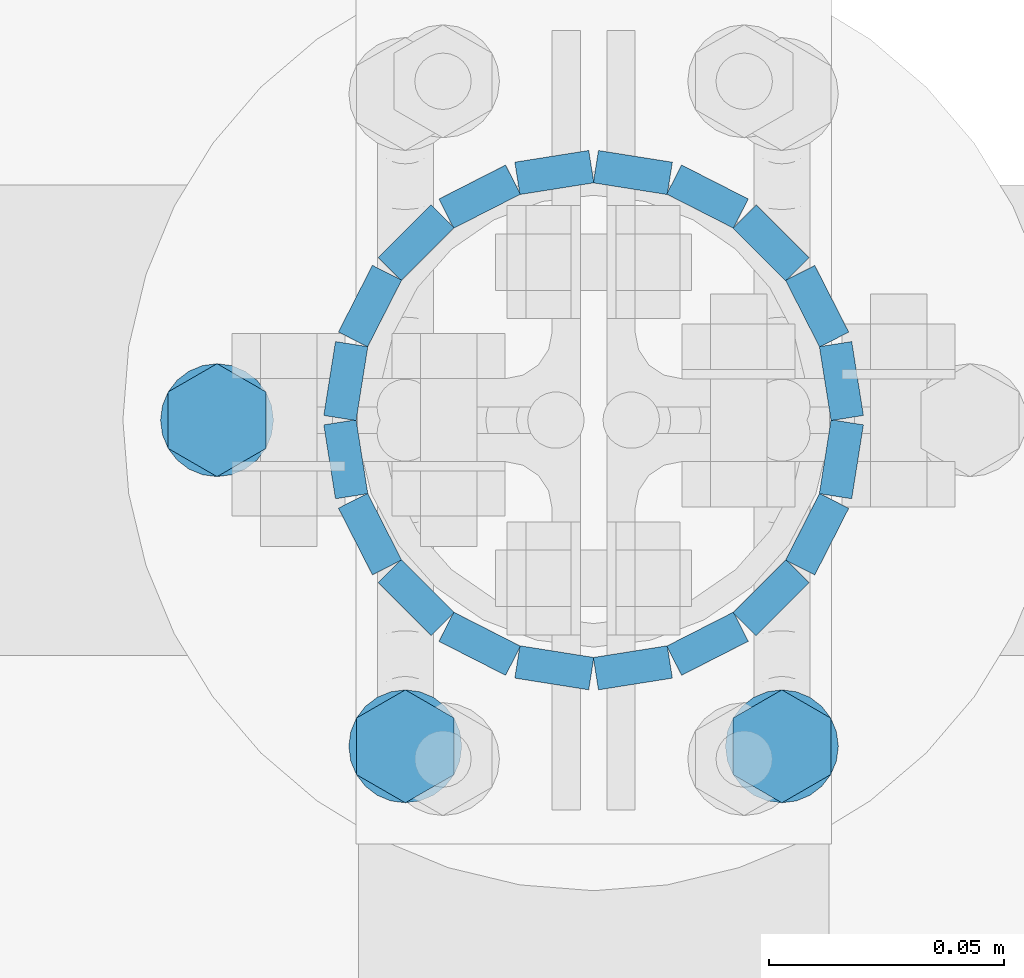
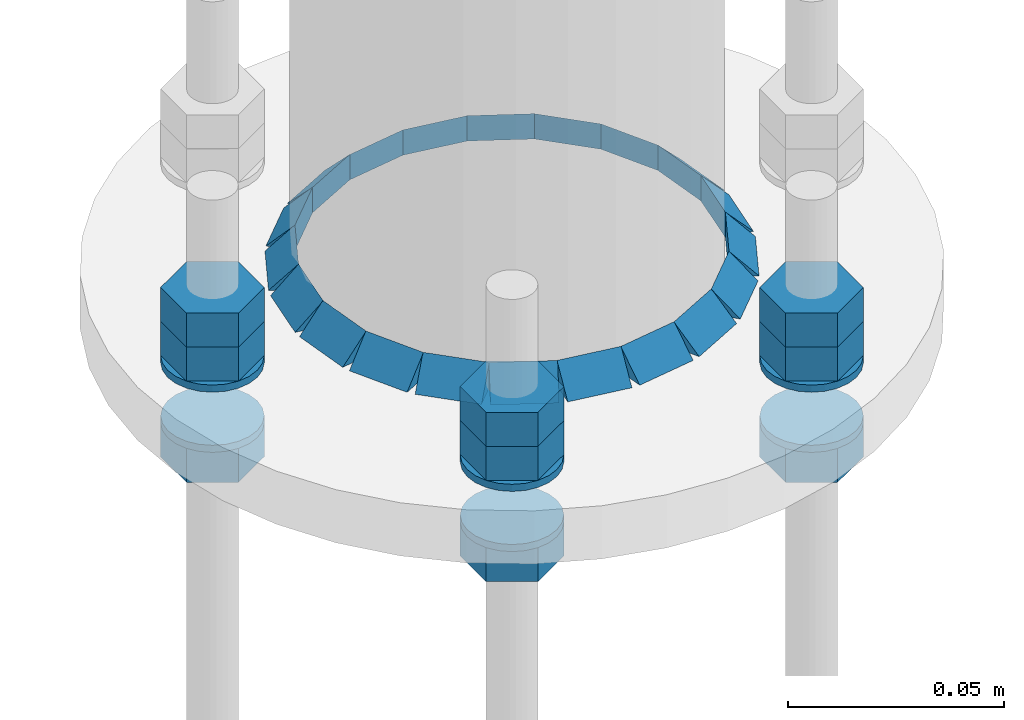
# One storey, part 52 of 84: 40 fasteners, 15 mechanical fasteners.
"""IFC4 building model written with IfcOpenShell, lengths in metres."""

from ifc_helpers import new_model, si_unit, frame, origin_with_axes, place, context, project, spatial, polyline, outline, extrude, type_object, element, save


model = new_model("IFC4")

# Units and contexts
model_context = context("Model", 3, precision=1e-05, world=origin_with_axes())
ifc_project = project(units=[si_unit("LENGTHUNIT", "METRE"), si_unit("AREAUNIT", "SQUARE_METRE"), si_unit("VOLUMEUNIT", "CUBIC_METRE"), si_unit("MASSUNIT", "GRAM", prefix="KILO"), si_unit("TIMEUNIT", "SECOND"), si_unit("PLANEANGLEUNIT", "RADIAN"), si_unit("SOLIDANGLEUNIT", "STERADIAN"), si_unit("THERMODYNAMICTEMPERATUREUNIT", "DEGREE_CELSIUS")], contexts=[model_context])

# Site, building, storey
placement_1 = place(None, origin_with_axes())
site = spatial("IfcSite", under=ifc_project, at=placement_1, Name="Italia", CompositionType="ELEMENT")
building = spatial("IfcBuilding", under=site, at=placement_1, Name="Tettoia", CompositionType="ELEMENT")
storey_placement = place(None, frame((0.0, 0.0, 4.199999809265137), z_axis=(0.0, 0.0, 1.0), x_axis=(1.0, 0.0, 0.0)))
storey = spatial("IfcBuildingStorey", under=building, at=storey_placement, Name="Storey 1", CompositionType="ELEMENT", Elevation=4.199999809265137)

# Fasteners
fastener_type_1 = type_object("IfcFastenerType", Name="Collegamento -012_0112", PredefinedType="WELD")
placement_2 = place(placement_1, origin_with_axes())
fastener_1_placement = place(placement_2, origin_with_axes())
element("IfcFastener", 1, at=fastener_1_placement, inside=storey, type_object=fastener_type_1, Name="Collegamento -012_0112", context=model_context, shape_type="SweptSolid", body=[
    extrude(outline(polyline([(0.0, 0.0), (0.00695801, 0.00717354), (0.00695801, 0.0), (0.0, 0.0)])), frame((4.08674, 14.0048, 4.01495), z_axis=(-0.987680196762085, 0.1564861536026, 0.0), x_axis=(-0.156486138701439, -0.98768013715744, 0.0)), (0.0, 0.0, 1.0), 0.0159),
])
fastener_type_2 = type_object("IfcFastenerType", Name="Collegamento -012_0112", PredefinedType="WELD")
fastener_2_placement = place(placement_2, origin_with_axes())
element("IfcFastener", 2, at=fastener_2_placement, inside=storey, type_object=fastener_type_2, Name="Collegamento -012_0112", context=model_context, shape_type="SweptSolid", body=[
    extrude(outline(polyline([(0.0, 0.0), (0.00695801, 0.00717354), (0.00695801, 0.0), (0.0, 0.0)])), frame((4.10286, 13.997, 4.01495), z_axis=(-0.891006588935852, 0.453990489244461, 0.0), x_axis=(-0.453990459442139, -0.891006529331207, 0.0)), (0.0, 0.0, 1.0), 0.0158998),
])
fastener_type_3 = type_object("IfcFastenerType", Name="Collegamento -012_0112", PredefinedType="WELD")
fastener_3_placement = place(placement_2, origin_with_axes())
element("IfcFastener", 3, at=fastener_3_placement, inside=storey, type_object=fastener_type_3, Name="Collegamento -012_0112", context=model_context, shape_type="SweptSolid", body=[
    extrude(outline(polyline([(0.0, 0.0), (0.00695801, 0.00717354), (0.00695801, 0.0), (0.0, 0.0)])), frame((4.11578, 13.9845, 4.01495), z_axis=(-0.70710676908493, 0.70710676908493, 0.0), x_axis=(-0.70710676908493, -0.70710676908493, 0.0)), (0.0, 0.0, 1.0), 0.0158998),
])
fastener_type_4 = type_object("IfcFastenerType", Name="Collegamento -012_0112", PredefinedType="WELD")
fastener_4_placement = place(placement_2, origin_with_axes())
element("IfcFastener", 4, at=fastener_4_placement, inside=storey, type_object=fastener_type_4, Name="Collegamento -012_0112", context=model_context, shape_type="SweptSolid", body=[
    extrude(outline(polyline([(0.0, 0.0), (0.00695896, 0.00717354), (0.00695896, 0.0), (0.0, 0.0)])), frame((4.12421, 13.9687, 4.01495), z_axis=(-0.453990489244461, 0.891006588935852, 0.0), x_axis=(-0.891006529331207, -0.453990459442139, 0.0)), (0.0, 0.0, 1.0), 0.0158998),
])
fastener_type_5 = type_object("IfcFastenerType", Name="Collegamento -012_0112", PredefinedType="WELD")
fastener_5_placement = place(placement_2, origin_with_axes())
element("IfcFastener", 5, at=fastener_5_placement, inside=storey, type_object=fastener_type_5, Name="Collegamento -012_0112", context=model_context, shape_type="SweptSolid", body=[
    extrude(outline(polyline([(0.0, 0.0), (0.00695801, 0.00717354), (0.00695801, 0.0), (0.0, 0.0)])), frame((4.12733, 13.951, 4.01495), z_axis=(-0.156398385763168, 0.987694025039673, 0.0), x_axis=(-0.987694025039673, -0.156398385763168, 0.0)), (0.0, 0.0, 1.0), 0.0158998),
])
fastener_type_6 = type_object("IfcFastenerType", Name="Collegamento -012_0112", PredefinedType="WELD")
fastener_6_placement = place(placement_2, origin_with_axes())
element("IfcFastener", 6, at=fastener_6_placement, inside=storey, type_object=fastener_type_6, Name="Collegamento -012_0112", context=model_context, shape_type="SweptSolid", body=[
    extrude(outline(polyline([(0.0, 0.0), (0.00695848, 0.00717354), (0.00695848, 0.0), (0.0, 0.0)])), frame((4.12484, 13.9333, 4.01495), z_axis=(0.156398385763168, 0.987694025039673, 0.0), x_axis=(-0.987694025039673, 0.156398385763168, 0.0)), (0.0, 0.0, 1.0), 0.0158998),
])
fastener_type_7 = type_object("IfcFastenerType", Name="Collegamento -012_0112", PredefinedType="WELD")
fastener_7_placement = place(placement_2, origin_with_axes())
element("IfcFastener", 7, at=fastener_7_placement, inside=storey, type_object=fastener_type_7, Name="Collegamento -012_0112", context=model_context, shape_type="SweptSolid", body=[
    extrude(outline(polyline([(0.0, 0.0), (0.00695848, 0.00717354), (0.00695848, 0.0), (0.0, 0.0)])), frame((4.11699, 13.9171, 4.01495), z_axis=(0.453990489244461, 0.891006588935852, 0.0), x_axis=(-0.891006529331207, 0.453990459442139, 0.0)), (0.0, 0.0, 1.0), 0.0158998),
])
fastener_type_8 = type_object("IfcFastenerType", Name="Collegamento -012_0112", PredefinedType="WELD")
fastener_8_placement = place(placement_2, origin_with_axes())
element("IfcFastener", 8, at=fastener_8_placement, inside=storey, type_object=fastener_type_8, Name="Collegamento -012_0112", context=model_context, shape_type="SweptSolid", body=[
    extrude(outline(polyline([(0.0, 0.0), (0.00695801, 0.00717354), (0.00695801, 0.0), (0.0, 0.0)])), frame((4.10453, 13.9042, 4.01495), z_axis=(0.70710676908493, 0.70710676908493, 0.0), x_axis=(-0.70710676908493, 0.70710676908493, 0.0)), (0.0, 0.0, 1.0), 0.0158998),
])
fastener_type_9 = type_object("IfcFastenerType", Name="Collegamento -012_0112", PredefinedType="WELD")
fastener_9_placement = place(placement_2, origin_with_axes())
element("IfcFastener", 9, at=fastener_9_placement, inside=storey, type_object=fastener_type_9, Name="Collegamento -012_0112", context=model_context, shape_type="SweptSolid", body=[
    extrude(outline(polyline([(0.0, 0.0), (0.00695896, 0.00717354), (0.00695896, 0.0), (0.0, 0.0)])), frame((4.0887, 13.8958, 4.01495), z_axis=(0.891006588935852, 0.453990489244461, 0.0), x_axis=(-0.453990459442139, 0.891006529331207, 0.0)), (0.0, 0.0, 1.0), 0.0158998),
])
fastener_type_10 = type_object("IfcFastenerType", Name="Collegamento -012_0112", PredefinedType="WELD")
fastener_10_placement = place(placement_2, origin_with_axes())
element("IfcFastener", 10, at=fastener_10_placement, inside=storey, type_object=fastener_type_10, Name="Collegamento -012_0112", context=model_context, shape_type="SweptSolid", body=[
    extrude(outline(polyline([(0.0, 0.0), (0.00695896, 0.00717354), (0.00695896, 0.0), (0.0, 0.0)])), frame((4.07103, 13.8927, 4.01495), z_axis=(0.987680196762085, 0.1564861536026, 0.0), x_axis=(-0.156486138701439, 0.98768013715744, 0.0)), (0.0, 0.0, 1.0), 0.0159),
])
fastener_type_11 = type_object("IfcFastenerType", Name="Collegamento -012_0112", PredefinedType="WELD")
fastener_11_placement = place(placement_2, origin_with_axes())
element("IfcFastener", 11, at=fastener_11_placement, inside=storey, type_object=fastener_type_11, Name="Collegamento -012_0112", context=model_context, shape_type="SweptSolid", body=[
    extrude(outline(polyline([(0.0, 0.0), (0.00695705, 0.00717354), (0.00695705, 0.0), (0.0, 0.0)])), frame((4.05326, 13.8952, 4.01495), z_axis=(0.987680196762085, -0.1564861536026, 0.0), x_axis=(0.156486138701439, 0.98768013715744, 0.0)), (0.0, 0.0, 1.0), 0.0159),
])
fastener_type_12 = type_object("IfcFastenerType", Name="Collegamento -012_0112", PredefinedType="WELD")
fastener_12_placement = place(placement_2, origin_with_axes())
element("IfcFastener", 12, at=fastener_12_placement, inside=storey, type_object=fastener_type_12, Name="Collegamento -012_0112", context=model_context, shape_type="SweptSolid", body=[
    extrude(outline(polyline([(0.0, 0.0), (0.00695801, 0.00717354), (0.00695801, 0.0), (0.0, 0.0)])), frame((4.03714, 13.903, 4.01495), z_axis=(0.891006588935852, -0.453990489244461, 0.0), x_axis=(0.453990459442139, 0.891006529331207, 0.0)), (0.0, 0.0, 1.0), 0.0158998),
])
fastener_type_13 = type_object("IfcFastenerType", Name="Collegamento -012_0112", PredefinedType="WELD")
fastener_13_placement = place(placement_2, origin_with_axes())
element("IfcFastener", 13, at=fastener_13_placement, inside=storey, type_object=fastener_type_13, Name="Collegamento -012_0112", context=model_context, shape_type="SweptSolid", body=[
    extrude(outline(polyline([(0.0, 0.0), (0.00695801, 0.00717354), (0.00695801, 0.0), (0.0, 0.0)])), frame((4.02422, 13.9155, 4.01495), z_axis=(0.70710676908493, -0.70710676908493, 0.0), x_axis=(0.70710676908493, 0.70710676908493, 0.0)), (0.0, 0.0, 1.0), 0.0158998),
])
fastener_type_14 = type_object("IfcFastenerType", Name="Collegamento -012_0112", PredefinedType="WELD")
fastener_14_placement = place(placement_2, origin_with_axes())
element("IfcFastener", 14, at=fastener_14_placement, inside=storey, type_object=fastener_type_14, Name="Collegamento -012_0112", context=model_context, shape_type="SweptSolid", body=[
    extrude(outline(polyline([(0.0, 0.0), (0.00695896, 0.00717354), (0.00695896, 0.0), (0.0, 0.0)])), frame((4.01579, 13.9313, 4.01495), z_axis=(0.453990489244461, -0.891006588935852, 0.0), x_axis=(0.891006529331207, 0.453990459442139, 0.0)), (0.0, 0.0, 1.0), 0.0158998),
])
fastener_type_15 = type_object("IfcFastenerType", Name="Collegamento -012_0112", PredefinedType="WELD")
fastener_15_placement = place(placement_2, origin_with_axes())
element("IfcFastener", 15, at=fastener_15_placement, inside=storey, type_object=fastener_type_15, Name="Collegamento -012_0112", context=model_context, shape_type="SweptSolid", body=[
    extrude(outline(polyline([(0.0, 0.0), (0.00695753, 0.00717354), (0.00695753, 0.0), (0.0, 0.0)])), frame((4.01267, 13.949, 4.01495), z_axis=(0.156398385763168, -0.987694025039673, 0.0), x_axis=(0.987694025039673, 0.156398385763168, 0.0)), (0.0, 0.0, 1.0), 0.0158998),
])
fastener_type_16 = type_object("IfcFastenerType", Name="Collegamento -012_0112", PredefinedType="WELD")
fastener_16_placement = place(placement_2, origin_with_axes())
element("IfcFastener", 16, at=fastener_16_placement, inside=storey, type_object=fastener_type_16, Name="Collegamento -012_0112", context=model_context, shape_type="SweptSolid", body=[
    extrude(outline(polyline([(0.0, 0.0), (0.00695825, 0.00717354), (0.00695825, 0.0), (0.0, 0.0)])), frame((4.01516, 13.9667, 4.01495), z_axis=(-0.156398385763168, -0.987694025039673, 0.0), x_axis=(0.987694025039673, -0.156398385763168, 0.0)), (0.0, 0.0, 1.0), 0.0158998),
])
fastener_type_17 = type_object("IfcFastenerType", Name="Collegamento -012_0112", PredefinedType="WELD")
fastener_17_placement = place(placement_2, origin_with_axes())
element("IfcFastener", 17, at=fastener_17_placement, inside=storey, type_object=fastener_type_17, Name="Collegamento -012_0112", context=model_context, shape_type="SweptSolid", body=[
    extrude(outline(polyline([(0.0, 0.0), (0.00695801, 0.00717354), (0.00695801, 0.0), (0.0, 0.0)])), frame((4.02301, 13.9829, 4.01495), z_axis=(-0.453990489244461, -0.891006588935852, 0.0), x_axis=(0.891006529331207, -0.453990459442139, 0.0)), (0.0, 0.0, 1.0), 0.0158998),
])
fastener_type_18 = type_object("IfcFastenerType", Name="Collegamento -012_0112", PredefinedType="WELD")
fastener_18_placement = place(placement_2, origin_with_axes())
element("IfcFastener", 18, at=fastener_18_placement, inside=storey, type_object=fastener_type_18, Name="Collegamento -012_0112", context=model_context, shape_type="SweptSolid", body=[
    extrude(outline(polyline([(0.0, 0.0), (0.00695753, 0.00717354), (0.00695753, 0.0), (0.0, 0.0)])), frame((4.03547, 13.9958, 4.01495), z_axis=(-0.70710676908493, -0.70710676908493, 0.0), x_axis=(0.70710676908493, -0.70710676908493, 0.0)), (0.0, 0.0, 1.0), 0.0158998),
])
fastener_type_19 = type_object("IfcFastenerType", Name="Collegamento -012_0112", PredefinedType="WELD")
fastener_19_placement = place(placement_2, origin_with_axes())
element("IfcFastener", 19, at=fastener_19_placement, inside=storey, type_object=fastener_type_19, Name="Collegamento -012_0112", context=model_context, shape_type="SweptSolid", body=[
    extrude(outline(polyline([(0.0, 0.0), (0.00695705, 0.00717354), (0.00695705, 0.0), (0.0, 0.0)])), frame((4.0513, 14.0042, 4.01495), z_axis=(-0.891006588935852, -0.453990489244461, 0.0), x_axis=(0.453990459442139, -0.891006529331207, 0.0)), (0.0, 0.0, 1.0), 0.0158998),
])
fastener_type_20 = type_object("IfcFastenerType", Name="Collegamento -012_0112", PredefinedType="WELD")
fastener_20_placement = place(placement_2, origin_with_axes())
element("IfcFastener", 20, at=fastener_20_placement, inside=storey, type_object=fastener_type_20, Name="Collegamento -012_0112", context=model_context, shape_type="SweptSolid", body=[
    extrude(outline(polyline([(0.0, 0.0), (0.00695896, 0.00717354), (0.00695896, 0.0), (0.0, 0.0)])), frame((4.06897, 14.0073, 4.01495), z_axis=(-0.987680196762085, -0.1564861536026, 0.0), x_axis=(0.156486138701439, -0.98768013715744, 0.0)), (0.0, 0.0, 1.0), 0.0159),
])
fastener_type_21 = type_object("IfcFastenerType", Name="Collegamento -012_0112", PredefinedType="WELD")
fastener_21_placement = place(placement_2, origin_with_axes())
element("IfcFastener", 21, at=fastener_21_placement, inside=storey, type_object=fastener_type_21, Name="Collegamento -012_0112", context=model_context, shape_type="SweptSolid", body=[
    extrude(outline(polyline([(0.0, 0.0), (0.00695801, 0.00717354), (0.00695801, 0.0), (0.0, 0.0)])), frame((4.08674, 14.0048, 4.01495), z_axis=(-0.987680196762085, 0.1564861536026, 0.0), x_axis=(-0.156486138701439, -0.98768013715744, 0.0)), (0.0, 0.0, 1.0), 0.0159),
])
fastener_type_22 = type_object("IfcFastenerType", Name="Collegamento -012_0112", PredefinedType="WELD")
fastener_22_placement = place(placement_2, origin_with_axes())
element("IfcFastener", 22, at=fastener_22_placement, inside=storey, type_object=fastener_type_22, Name="Collegamento -012_0112", context=model_context, shape_type="SweptSolid", body=[
    extrude(outline(polyline([(0.0, 0.0), (0.00695801, 0.00717354), (0.00695801, 0.0), (0.0, 0.0)])), frame((4.10286, 13.997, 4.01495), z_axis=(-0.891006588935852, 0.453990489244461, 0.0), x_axis=(-0.453990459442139, -0.891006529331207, 0.0)), (0.0, 0.0, 1.0), 0.0158998),
])
fastener_type_23 = type_object("IfcFastenerType", Name="Collegamento -012_0112", PredefinedType="WELD")
fastener_23_placement = place(placement_2, origin_with_axes())
element("IfcFastener", 23, at=fastener_23_placement, inside=storey, type_object=fastener_type_23, Name="Collegamento -012_0112", context=model_context, shape_type="SweptSolid", body=[
    extrude(outline(polyline([(0.0, 0.0), (0.00695801, 0.00717354), (0.00695801, 0.0), (0.0, 0.0)])), frame((4.11578, 13.9845, 4.01495), z_axis=(-0.70710676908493, 0.70710676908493, 0.0), x_axis=(-0.70710676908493, -0.70710676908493, 0.0)), (0.0, 0.0, 1.0), 0.0158998),
])
fastener_type_24 = type_object("IfcFastenerType", Name="Collegamento -012_0112", PredefinedType="WELD")
fastener_24_placement = place(placement_2, origin_with_axes())
element("IfcFastener", 24, at=fastener_24_placement, inside=storey, type_object=fastener_type_24, Name="Collegamento -012_0112", context=model_context, shape_type="SweptSolid", body=[
    extrude(outline(polyline([(0.0, 0.0), (0.00695896, 0.00717354), (0.00695896, 0.0), (0.0, 0.0)])), frame((4.12421, 13.9687, 4.01495), z_axis=(-0.453990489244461, 0.891006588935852, 0.0), x_axis=(-0.891006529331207, -0.453990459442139, 0.0)), (0.0, 0.0, 1.0), 0.0158998),
])
fastener_type_25 = type_object("IfcFastenerType", Name="Collegamento -012_0112", PredefinedType="WELD")
fastener_25_placement = place(placement_2, origin_with_axes())
element("IfcFastener", 25, at=fastener_25_placement, inside=storey, type_object=fastener_type_25, Name="Collegamento -012_0112", context=model_context, shape_type="SweptSolid", body=[
    extrude(outline(polyline([(0.0, 0.0), (0.00695801, 0.00717354), (0.00695801, 0.0), (0.0, 0.0)])), frame((4.12733, 13.951, 4.01495), z_axis=(-0.156398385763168, 0.987694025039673, 0.0), x_axis=(-0.987694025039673, -0.156398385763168, 0.0)), (0.0, 0.0, 1.0), 0.0158998),
])
fastener_type_26 = type_object("IfcFastenerType", Name="Collegamento -012_0112", PredefinedType="WELD")
fastener_26_placement = place(placement_2, origin_with_axes())
element("IfcFastener", 26, at=fastener_26_placement, inside=storey, type_object=fastener_type_26, Name="Collegamento -012_0112", context=model_context, shape_type="SweptSolid", body=[
    extrude(outline(polyline([(0.0, 0.0), (0.00695848, 0.00717354), (0.00695848, 0.0), (0.0, 0.0)])), frame((4.12484, 13.9333, 4.01495), z_axis=(0.156398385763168, 0.987694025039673, 0.0), x_axis=(-0.987694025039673, 0.156398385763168, 0.0)), (0.0, 0.0, 1.0), 0.0158998),
])
fastener_type_27 = type_object("IfcFastenerType", Name="Collegamento -012_0112", PredefinedType="WELD")
fastener_27_placement = place(placement_2, origin_with_axes())
element("IfcFastener", 27, at=fastener_27_placement, inside=storey, type_object=fastener_type_27, Name="Collegamento -012_0112", context=model_context, shape_type="SweptSolid", body=[
    extrude(outline(polyline([(0.0, 0.0), (0.00695848, 0.00717354), (0.00695848, 0.0), (0.0, 0.0)])), frame((4.11699, 13.9171, 4.01495), z_axis=(0.453990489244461, 0.891006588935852, 0.0), x_axis=(-0.891006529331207, 0.453990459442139, 0.0)), (0.0, 0.0, 1.0), 0.0158998),
])
fastener_type_28 = type_object("IfcFastenerType", Name="Collegamento -012_0112", PredefinedType="WELD")
fastener_28_placement = place(placement_2, origin_with_axes())
element("IfcFastener", 28, at=fastener_28_placement, inside=storey, type_object=fastener_type_28, Name="Collegamento -012_0112", context=model_context, shape_type="SweptSolid", body=[
    extrude(outline(polyline([(0.0, 0.0), (0.00695801, 0.00717354), (0.00695801, 0.0), (0.0, 0.0)])), frame((4.10453, 13.9042, 4.01495), z_axis=(0.70710676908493, 0.70710676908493, 0.0), x_axis=(-0.70710676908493, 0.70710676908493, 0.0)), (0.0, 0.0, 1.0), 0.0158998),
])
fastener_type_29 = type_object("IfcFastenerType", Name="Collegamento -012_0112", PredefinedType="WELD")
fastener_29_placement = place(placement_2, origin_with_axes())
element("IfcFastener", 29, at=fastener_29_placement, inside=storey, type_object=fastener_type_29, Name="Collegamento -012_0112", context=model_context, shape_type="SweptSolid", body=[
    extrude(outline(polyline([(0.0, 0.0), (0.00695896, 0.00717354), (0.00695896, 0.0), (0.0, 0.0)])), frame((4.0887, 13.8958, 4.01495), z_axis=(0.891006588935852, 0.453990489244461, 0.0), x_axis=(-0.453990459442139, 0.891006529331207, 0.0)), (0.0, 0.0, 1.0), 0.0158998),
])
fastener_type_30 = type_object("IfcFastenerType", Name="Collegamento -012_0112", PredefinedType="WELD")
fastener_30_placement = place(placement_2, origin_with_axes())
element("IfcFastener", 30, at=fastener_30_placement, inside=storey, type_object=fastener_type_30, Name="Collegamento -012_0112", context=model_context, shape_type="SweptSolid", body=[
    extrude(outline(polyline([(0.0, 0.0), (0.00695896, 0.00717354), (0.00695896, 0.0), (0.0, 0.0)])), frame((4.07103, 13.8927, 4.01495), z_axis=(0.987680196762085, 0.1564861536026, 0.0), x_axis=(-0.156486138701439, 0.98768013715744, 0.0)), (0.0, 0.0, 1.0), 0.0159),
])
fastener_type_31 = type_object("IfcFastenerType", Name="Collegamento -012_0112", PredefinedType="WELD")
fastener_31_placement = place(placement_2, origin_with_axes())
element("IfcFastener", 31, at=fastener_31_placement, inside=storey, type_object=fastener_type_31, Name="Collegamento -012_0112", context=model_context, shape_type="SweptSolid", body=[
    extrude(outline(polyline([(0.0, 0.0), (0.00695705, 0.00717354), (0.00695705, 0.0), (0.0, 0.0)])), frame((4.05326, 13.8952, 4.01495), z_axis=(0.987680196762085, -0.1564861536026, 0.0), x_axis=(0.156486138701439, 0.98768013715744, 0.0)), (0.0, 0.0, 1.0), 0.0159),
])
fastener_type_32 = type_object("IfcFastenerType", Name="Collegamento -012_0112", PredefinedType="WELD")
fastener_32_placement = place(placement_2, origin_with_axes())
element("IfcFastener", 32, at=fastener_32_placement, inside=storey, type_object=fastener_type_32, Name="Collegamento -012_0112", context=model_context, shape_type="SweptSolid", body=[
    extrude(outline(polyline([(0.0, 0.0), (0.00695801, 0.00717354), (0.00695801, 0.0), (0.0, 0.0)])), frame((4.03714, 13.903, 4.01495), z_axis=(0.891006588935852, -0.453990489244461, 0.0), x_axis=(0.453990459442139, 0.891006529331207, 0.0)), (0.0, 0.0, 1.0), 0.0158998),
])
fastener_type_33 = type_object("IfcFastenerType", Name="Collegamento -012_0112", PredefinedType="WELD")
fastener_33_placement = place(placement_2, origin_with_axes())
element("IfcFastener", 33, at=fastener_33_placement, inside=storey, type_object=fastener_type_33, Name="Collegamento -012_0112", context=model_context, shape_type="SweptSolid", body=[
    extrude(outline(polyline([(0.0, 0.0), (0.00695801, 0.00717354), (0.00695801, 0.0), (0.0, 0.0)])), frame((4.02422, 13.9155, 4.01495), z_axis=(0.70710676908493, -0.70710676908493, 0.0), x_axis=(0.70710676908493, 0.70710676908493, 0.0)), (0.0, 0.0, 1.0), 0.0158998),
])
fastener_type_34 = type_object("IfcFastenerType", Name="Collegamento -012_0112", PredefinedType="WELD")
fastener_34_placement = place(placement_2, origin_with_axes())
element("IfcFastener", 34, at=fastener_34_placement, inside=storey, type_object=fastener_type_34, Name="Collegamento -012_0112", context=model_context, shape_type="SweptSolid", body=[
    extrude(outline(polyline([(0.0, 0.0), (0.00695896, 0.00717354), (0.00695896, 0.0), (0.0, 0.0)])), frame((4.01579, 13.9313, 4.01495), z_axis=(0.453990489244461, -0.891006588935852, 0.0), x_axis=(0.891006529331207, 0.453990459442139, 0.0)), (0.0, 0.0, 1.0), 0.0158998),
])
fastener_type_35 = type_object("IfcFastenerType", Name="Collegamento -012_0112", PredefinedType="WELD")
fastener_35_placement = place(placement_2, origin_with_axes())
element("IfcFastener", 35, at=fastener_35_placement, inside=storey, type_object=fastener_type_35, Name="Collegamento -012_0112", context=model_context, shape_type="SweptSolid", body=[
    extrude(outline(polyline([(0.0, 0.0), (0.00695753, 0.00717354), (0.00695753, 0.0), (0.0, 0.0)])), frame((4.01267, 13.949, 4.01495), z_axis=(0.156398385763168, -0.987694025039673, 0.0), x_axis=(0.987694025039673, 0.156398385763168, 0.0)), (0.0, 0.0, 1.0), 0.0158998),
])
fastener_type_36 = type_object("IfcFastenerType", Name="Collegamento -012_0112", PredefinedType="WELD")
fastener_36_placement = place(placement_2, origin_with_axes())
element("IfcFastener", 36, at=fastener_36_placement, inside=storey, type_object=fastener_type_36, Name="Collegamento -012_0112", context=model_context, shape_type="SweptSolid", body=[
    extrude(outline(polyline([(0.0, 0.0), (0.00695825, 0.00717354), (0.00695825, 0.0), (0.0, 0.0)])), frame((4.01516, 13.9667, 4.01495), z_axis=(-0.156398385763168, -0.987694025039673, 0.0), x_axis=(0.987694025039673, -0.156398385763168, 0.0)), (0.0, 0.0, 1.0), 0.0158998),
])
fastener_type_37 = type_object("IfcFastenerType", Name="Collegamento -012_0112", PredefinedType="WELD")
fastener_37_placement = place(placement_2, origin_with_axes())
element("IfcFastener", 37, at=fastener_37_placement, inside=storey, type_object=fastener_type_37, Name="Collegamento -012_0112", context=model_context, shape_type="SweptSolid", body=[
    extrude(outline(polyline([(0.0, 0.0), (0.00695801, 0.00717354), (0.00695801, 0.0), (0.0, 0.0)])), frame((4.02301, 13.9829, 4.01495), z_axis=(-0.453990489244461, -0.891006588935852, 0.0), x_axis=(0.891006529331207, -0.453990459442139, 0.0)), (0.0, 0.0, 1.0), 0.0158998),
])
fastener_type_38 = type_object("IfcFastenerType", Name="Collegamento -012_0112", PredefinedType="WELD")
fastener_38_placement = place(placement_2, origin_with_axes())
element("IfcFastener", 38, at=fastener_38_placement, inside=storey, type_object=fastener_type_38, Name="Collegamento -012_0112", context=model_context, shape_type="SweptSolid", body=[
    extrude(outline(polyline([(0.0, 0.0), (0.00695753, 0.00717354), (0.00695753, 0.0), (0.0, 0.0)])), frame((4.03547, 13.9958, 4.01495), z_axis=(-0.70710676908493, -0.70710676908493, 0.0), x_axis=(0.70710676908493, -0.70710676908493, 0.0)), (0.0, 0.0, 1.0), 0.0158998),
])
fastener_type_39 = type_object("IfcFastenerType", Name="Collegamento -012_0112", PredefinedType="WELD")
fastener_39_placement = place(placement_2, origin_with_axes())
element("IfcFastener", 39, at=fastener_39_placement, inside=storey, type_object=fastener_type_39, Name="Collegamento -012_0112", context=model_context, shape_type="SweptSolid", body=[
    extrude(outline(polyline([(0.0, 0.0), (0.00695705, 0.00717354), (0.00695705, 0.0), (0.0, 0.0)])), frame((4.0513, 14.0042, 4.01495), z_axis=(-0.891006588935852, -0.453990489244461, 0.0), x_axis=(0.453990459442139, -0.891006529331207, 0.0)), (0.0, 0.0, 1.0), 0.0158998),
])
fastener_type_40 = type_object("IfcFastenerType", Name="Collegamento -012_0112", PredefinedType="WELD")
fastener_40_placement = place(placement_2, origin_with_axes())
element("IfcFastener", 40, at=fastener_40_placement, inside=storey, type_object=fastener_type_40, Name="Collegamento -012_0112", context=model_context, shape_type="SweptSolid", body=[
    extrude(outline(polyline([(0.0, 0.0), (0.00695896, 0.00717354), (0.00695896, 0.0), (0.0, 0.0)])), frame((4.06897, 14.0073, 4.01495), z_axis=(-0.987680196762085, -0.1564861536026, 0.0), x_axis=(0.156486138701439, -0.98768013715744, 0.0)), (0.0, 0.0, 1.0), 0.0159),
])

# Mechanical fasteners
mechanical_fastener_type_1 = type_object("IfcMechanicalFastenerType", Name="Collegamento -012_0112", PredefinedType="BOLT")
mechanical_fastener_1_placement = place(placement_2, origin_with_axes())
element("IfcMechanicalFastener", 41, at=mechanical_fastener_1_placement, inside=storey, type_object=mechanical_fastener_type_1, Name="Collegamento -012_0112", NominalDiameter=0.0119991, context=model_context, shape_type="SweptSolid", body=[
    extrude(outline(polyline([(0.0, 0.0), (-0.0119991, 0.0), (-0.0179996, 0.0103922), (-0.0119991, 0.0207846), (0.0, 0.0207846), (0.00600052, 0.0103922), (0.0, 0.0)])), frame((4.00039, 13.956, 4.017), z_axis=(0.0, 0.0, 1.0), x_axis=(0.0, 1.0, 0.0)), (0.0, 0.0, 1.0), 0.00959969),
])
mechanical_fastener_type_2 = type_object("IfcMechanicalFastenerType", Name="Collegamento -012_0112", PredefinedType="BOLT")
mechanical_fastener_2_placement = place(placement_2, origin_with_axes())
element("IfcMechanicalFastener", 42, at=mechanical_fastener_2_placement, inside=storey, type_object=mechanical_fastener_type_2, Name="Collegamento -012_0112", NominalDiameter=0.0119991, context=model_context, shape_type="SweptSolid", body=[
    extrude(outline(polyline([(0.0, 0.0), (-0.0119991, 0.0), (-0.0179996, 0.0103922), (-0.0119991, 0.0207846), (0.0, 0.0207846), (0.00600052, 0.0103922), (0.0, 0.0)])), frame((4.00039, 13.956, 4.0266), z_axis=(0.0, 0.0, 1.0), x_axis=(0.0, 1.0, 0.0)), (0.0, 0.0, 1.0), 0.00960016),
])
mechanical_fastener_type_3 = type_object("IfcMechanicalFastenerType", Name="Collegamento -012_0112", PredefinedType="BOLT")
mechanical_fastener_3_placement = place(placement_2, origin_with_axes())
element("IfcMechanicalFastener", 43, at=mechanical_fastener_3_placement, inside=storey, type_object=mechanical_fastener_type_3, Name="Collegamento -012_0112", NominalDiameter=0.0119991, context=model_context, shape_type="SweptSolid", body=[
    extrude(outline(polyline([(0.0, 0.0), (-0.0119991, 0.0), (-0.0179996, 0.0103922), (-0.0119991, 0.0207846), (0.0, 0.0207846), (0.00600052, 0.0103922), (0.0, 0.0)])), frame((4.00039, 13.956, 3.9884), z_axis=(0.0, 0.0, 1.0), x_axis=(0.0, 1.0, 0.0)), (0.0, 0.0, 1.0), 0.00959992),
])
mechanical_fastener_type_4 = type_object("IfcMechanicalFastenerType", Name="Collegamento -012_0112", PredefinedType="BOLT")
mechanical_fastener_4_placement = place(placement_2, origin_with_axes())
element("IfcMechanicalFastener", 44, at=mechanical_fastener_4_placement, inside=storey, type_object=mechanical_fastener_type_4, Name="Collegamento -012_0112", NominalDiameter=0.024, context=model_context, shape_type="SweptSolid", body=[
    extrude(outline(polyline([(0.0, 0.0), (-0.000409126, -0.00310588), (-0.00160789, -0.00600004), (-0.00351524, -0.00848532), (-0.00600052, -0.0103922), (-0.00889397, -0.011591), (-0.0120001, -0.0120001), (-0.0151062, -0.011591), (-0.0179996, -0.0103922), (-0.0204849, -0.00848532), (-0.0223923, -0.00600004), (-0.023591, -0.00310588), (-0.0240002, 0.0), (-0.023591, 0.00310588), (-0.0223923, 0.00600004), (-0.0204849, 0.00848532), (-0.0179996, 0.0103922), (-0.0151062, 0.0115912), (-0.0120001, 0.0120001), (-0.00889397, 0.0115912), (-0.00600052, 0.0103922), (-0.00351524, 0.00848532), (-0.00160789, 0.00600004), (-0.000409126, 0.00310588), (0.0, 0.0)])), frame((3.99, 13.962, 4.015), z_axis=(0.0, 0.0, 1.0), x_axis=(0.0, 1.0, 0.0)), (0.0, 0.0, 1.0), 0.00200033),
])
mechanical_fastener_type_5 = type_object("IfcMechanicalFastenerType", Name="Collegamento -012_0112", PredefinedType="BOLT")
mechanical_fastener_5_placement = place(placement_2, origin_with_axes())
element("IfcMechanicalFastener", 45, at=mechanical_fastener_5_placement, inside=storey, type_object=mechanical_fastener_type_5, Name="Collegamento -012_0112", NominalDiameter=0.024, context=model_context, shape_type="SweptSolid", body=[
    extrude(outline(polyline([(0.0, 0.0), (-0.000409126, -0.00310588), (-0.00160789, -0.00600004), (-0.00351524, -0.00848532), (-0.00600052, -0.0103922), (-0.00889397, -0.011591), (-0.0120001, -0.0120001), (-0.0151062, -0.011591), (-0.0179996, -0.0103922), (-0.0204849, -0.00848532), (-0.0223923, -0.00600004), (-0.023591, -0.00310588), (-0.0240002, 0.0), (-0.023591, 0.00310588), (-0.0223923, 0.00600004), (-0.0204849, 0.00848532), (-0.0179996, 0.0103922), (-0.0151062, 0.0115912), (-0.0120001, 0.0120001), (-0.00889397, 0.0115912), (-0.00600052, 0.0103922), (-0.00351524, 0.00848532), (-0.00160789, 0.00600004), (-0.000409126, 0.00310588), (0.0, 0.0)])), frame((3.99, 13.962, 3.998), z_axis=(0.0, 0.0, 1.0), x_axis=(0.0, 1.0, 0.0)), (0.0, 0.0, 1.0), 0.00200009),
])
mechanical_fastener_type_6 = type_object("IfcMechanicalFastenerType", Name="Collegamento -012_0112", PredefinedType="BOLT")
mechanical_fastener_6_placement = place(placement_2, origin_with_axes())
element("IfcMechanicalFastener", 46, at=mechanical_fastener_6_placement, inside=storey, type_object=mechanical_fastener_type_6, Name="Collegamento -012_0112", NominalDiameter=0.0119997, context=model_context, shape_type="SweptSolid", body=[
    extrude(outline(polyline([(0.0, 0.0), (-0.0120001, 0.0), (-0.0179996, 0.0103922), (-0.0120001, 0.0207844), (0.0, 0.0207844), (0.00599957, 0.0103922), (0.0, 0.0)])), frame((4.04039, 13.8867, 4.017), z_axis=(0.0, 0.0, 1.0), x_axis=(0.0, 1.0, 0.0)), (0.0, 0.0, 1.0), 0.00959969),
])
mechanical_fastener_type_7 = type_object("IfcMechanicalFastenerType", Name="Collegamento -012_0112", PredefinedType="BOLT")
mechanical_fastener_7_placement = place(placement_2, origin_with_axes())
element("IfcMechanicalFastener", 47, at=mechanical_fastener_7_placement, inside=storey, type_object=mechanical_fastener_type_7, Name="Collegamento -012_0112", NominalDiameter=0.0119997, context=model_context, shape_type="SweptSolid", body=[
    extrude(outline(polyline([(0.0, 0.0), (-0.0120001, 0.0), (-0.0179996, 0.0103922), (-0.0120001, 0.0207844), (0.0, 0.0207844), (0.00599957, 0.0103922), (0.0, 0.0)])), frame((4.04039, 13.8867, 4.0266), z_axis=(0.0, 0.0, 1.0), x_axis=(0.0, 1.0, 0.0)), (0.0, 0.0, 1.0), 0.00960016),
])
mechanical_fastener_type_8 = type_object("IfcMechanicalFastenerType", Name="Collegamento -012_0112", PredefinedType="BOLT")
mechanical_fastener_8_placement = place(placement_2, origin_with_axes())
element("IfcMechanicalFastener", 48, at=mechanical_fastener_8_placement, inside=storey, type_object=mechanical_fastener_type_8, Name="Collegamento -012_0112", NominalDiameter=0.0119997, context=model_context, shape_type="SweptSolid", body=[
    extrude(outline(polyline([(0.0, 0.0), (-0.0120001, 0.0), (-0.0179996, 0.0103922), (-0.0120001, 0.0207844), (0.0, 0.0207844), (0.00599957, 0.0103922), (0.0, 0.0)])), frame((4.04039, 13.8867, 3.9884), z_axis=(0.0, 0.0, 1.0), x_axis=(0.0, 1.0, 0.0)), (0.0, 0.0, 1.0), 0.00959992),
])
mechanical_fastener_type_9 = type_object("IfcMechanicalFastenerType", Name="Collegamento -012_0112", PredefinedType="BOLT")
mechanical_fastener_9_placement = place(placement_2, origin_with_axes())
element("IfcMechanicalFastener", 49, at=mechanical_fastener_9_placement, inside=storey, type_object=mechanical_fastener_type_9, Name="Collegamento -012_0112", NominalDiameter=0.024, context=model_context, shape_type="SweptSolid", body=[
    extrude(outline(polyline([(0.0, 0.0), (-0.000409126, -0.00310564), (-0.00160789, -0.00600004), (-0.00351524, -0.00848532), (-0.00600052, -0.0103922), (-0.00889397, -0.011591), (-0.0120001, -0.0120001), (-0.0151062, -0.011591), (-0.0179996, -0.0103922), (-0.0204849, -0.00848532), (-0.0223923, -0.00600004), (-0.023591, -0.00310564), (-0.0240002, 0.0), (-0.023591, 0.00310564), (-0.0223923, 0.00600004), (-0.0204849, 0.00848532), (-0.0179996, 0.0103922), (-0.0151062, 0.011591), (-0.0120001, 0.0120001), (-0.00889397, 0.011591), (-0.00600052, 0.0103922), (-0.00351524, 0.00848532), (-0.00160789, 0.00600004), (-0.000409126, 0.00310564), (0.0, 0.0)])), frame((4.03, 13.8927, 4.015), z_axis=(0.0, 0.0, 1.0), x_axis=(0.0, 1.0, 0.0)), (0.0, 0.0, 1.0), 0.00200033),
])
mechanical_fastener_type_10 = type_object("IfcMechanicalFastenerType", Name="Collegamento -012_0112", PredefinedType="BOLT")
mechanical_fastener_10_placement = place(placement_2, origin_with_axes())
element("IfcMechanicalFastener", 50, at=mechanical_fastener_10_placement, inside=storey, type_object=mechanical_fastener_type_10, Name="Collegamento -012_0112", NominalDiameter=0.024, context=model_context, shape_type="SweptSolid", body=[
    extrude(outline(polyline([(0.0, 0.0), (-0.000409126, -0.00310564), (-0.00160789, -0.00600004), (-0.00351524, -0.00848532), (-0.00600052, -0.0103922), (-0.00889397, -0.011591), (-0.0120001, -0.0120001), (-0.0151062, -0.011591), (-0.0179996, -0.0103922), (-0.0204849, -0.00848532), (-0.0223923, -0.00600004), (-0.023591, -0.00310564), (-0.0240002, 0.0), (-0.023591, 0.00310564), (-0.0223923, 0.00600004), (-0.0204849, 0.00848532), (-0.0179996, 0.0103922), (-0.0151062, 0.011591), (-0.0120001, 0.0120001), (-0.00889397, 0.011591), (-0.00600052, 0.0103922), (-0.00351524, 0.00848532), (-0.00160789, 0.00600004), (-0.000409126, 0.00310564), (0.0, 0.0)])), frame((4.03, 13.8927, 3.998), z_axis=(0.0, 0.0, 1.0), x_axis=(0.0, 1.0, 0.0)), (0.0, 0.0, 1.0), 0.00200009),
])
mechanical_fastener_type_11 = type_object("IfcMechanicalFastenerType", Name="Collegamento -012_0112", PredefinedType="BOLT")
mechanical_fastener_11_placement = place(placement_2, origin_with_axes())
element("IfcMechanicalFastener", 51, at=mechanical_fastener_11_placement, inside=storey, type_object=mechanical_fastener_type_11, Name="Collegamento -012_0112", NominalDiameter=0.0119997, context=model_context, shape_type="SweptSolid", body=[
    extrude(outline(polyline([(0.0, 0.0), (-0.0120001, 0.0), (-0.0179996, 0.0103922), (-0.0120001, 0.0207844), (0.0, 0.0207844), (0.00599957, 0.0103922), (0.0, 0.0)])), frame((4.12039, 13.8867, 4.017), z_axis=(0.0, 0.0, 1.0), x_axis=(0.0, 1.0, 0.0)), (0.0, 0.0, 1.0), 0.00959969),
])
mechanical_fastener_type_12 = type_object("IfcMechanicalFastenerType", Name="Collegamento -012_0112", PredefinedType="BOLT")
mechanical_fastener_12_placement = place(placement_2, origin_with_axes())
element("IfcMechanicalFastener", 52, at=mechanical_fastener_12_placement, inside=storey, type_object=mechanical_fastener_type_12, Name="Collegamento -012_0112", NominalDiameter=0.0119997, context=model_context, shape_type="SweptSolid", body=[
    extrude(outline(polyline([(0.0, 0.0), (-0.0120001, 0.0), (-0.0179996, 0.0103922), (-0.0120001, 0.0207844), (0.0, 0.0207844), (0.00599957, 0.0103922), (0.0, 0.0)])), frame((4.12039, 13.8867, 4.0266), z_axis=(0.0, 0.0, 1.0), x_axis=(0.0, 1.0, 0.0)), (0.0, 0.0, 1.0), 0.00960016),
])
mechanical_fastener_type_13 = type_object("IfcMechanicalFastenerType", Name="Collegamento -012_0112", PredefinedType="BOLT")
mechanical_fastener_13_placement = place(placement_2, origin_with_axes())
element("IfcMechanicalFastener", 53, at=mechanical_fastener_13_placement, inside=storey, type_object=mechanical_fastener_type_13, Name="Collegamento -012_0112", NominalDiameter=0.0119997, context=model_context, shape_type="SweptSolid", body=[
    extrude(outline(polyline([(0.0, 0.0), (-0.0120001, 0.0), (-0.0179996, 0.0103922), (-0.0120001, 0.0207844), (0.0, 0.0207844), (0.00599957, 0.0103922), (0.0, 0.0)])), frame((4.12039, 13.8867, 3.9884), z_axis=(0.0, 0.0, 1.0), x_axis=(0.0, 1.0, 0.0)), (0.0, 0.0, 1.0), 0.00959992),
])
mechanical_fastener_type_14 = type_object("IfcMechanicalFastenerType", Name="Collegamento -012_0112", PredefinedType="BOLT")
mechanical_fastener_14_placement = place(placement_2, origin_with_axes())
element("IfcMechanicalFastener", 54, at=mechanical_fastener_14_placement, inside=storey, type_object=mechanical_fastener_type_14, Name="Collegamento -012_0112", NominalDiameter=0.024, context=model_context, shape_type="SweptSolid", body=[
    extrude(outline(polyline([(0.0, 0.0), (-0.000409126, -0.00310564), (-0.00160789, -0.00600004), (-0.00351524, -0.00848532), (-0.00600052, -0.0103922), (-0.00889397, -0.011591), (-0.0120001, -0.0120001), (-0.0151062, -0.011591), (-0.0179996, -0.0103922), (-0.0204849, -0.00848532), (-0.0223923, -0.00600004), (-0.023591, -0.00310564), (-0.0240002, 0.0), (-0.023591, 0.00310564), (-0.0223923, 0.00600004), (-0.0204849, 0.00848532), (-0.0179996, 0.0103922), (-0.0151062, 0.011591), (-0.0120001, 0.0120001), (-0.00889397, 0.011591), (-0.00600052, 0.0103922), (-0.00351524, 0.00848532), (-0.00160789, 0.00600004), (-0.000409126, 0.00310564), (0.0, 0.0)])), frame((4.11, 13.8927, 4.015), z_axis=(0.0, 0.0, 1.0), x_axis=(0.0, 1.0, 0.0)), (0.0, 0.0, 1.0), 0.00200033),
])
mechanical_fastener_type_15 = type_object("IfcMechanicalFastenerType", Name="Collegamento -012_0112", PredefinedType="BOLT")
mechanical_fastener_15_placement = place(placement_2, origin_with_axes())
element("IfcMechanicalFastener", 55, at=mechanical_fastener_15_placement, inside=storey, type_object=mechanical_fastener_type_15, Name="Collegamento -012_0112", NominalDiameter=0.024, context=model_context, shape_type="SweptSolid", body=[
    extrude(outline(polyline([(0.0, 0.0), (-0.000409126, -0.00310564), (-0.00160789, -0.00600004), (-0.00351524, -0.00848532), (-0.00600052, -0.0103922), (-0.00889397, -0.011591), (-0.0120001, -0.0120001), (-0.0151062, -0.011591), (-0.0179996, -0.0103922), (-0.0204849, -0.00848532), (-0.0223923, -0.00600004), (-0.023591, -0.00310564), (-0.0240002, 0.0), (-0.023591, 0.00310564), (-0.0223923, 0.00600004), (-0.0204849, 0.00848532), (-0.0179996, 0.0103922), (-0.0151062, 0.011591), (-0.0120001, 0.0120001), (-0.00889397, 0.011591), (-0.00600052, 0.0103922), (-0.00351524, 0.00848532), (-0.00160789, 0.00600004), (-0.000409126, 0.00310564), (0.0, 0.0)])), frame((4.11, 13.8927, 3.998), z_axis=(0.0, 0.0, 1.0), x_axis=(0.0, 1.0, 0.0)), (0.0, 0.0, 1.0), 0.00200009),
])

save(model, "model.ifc")
